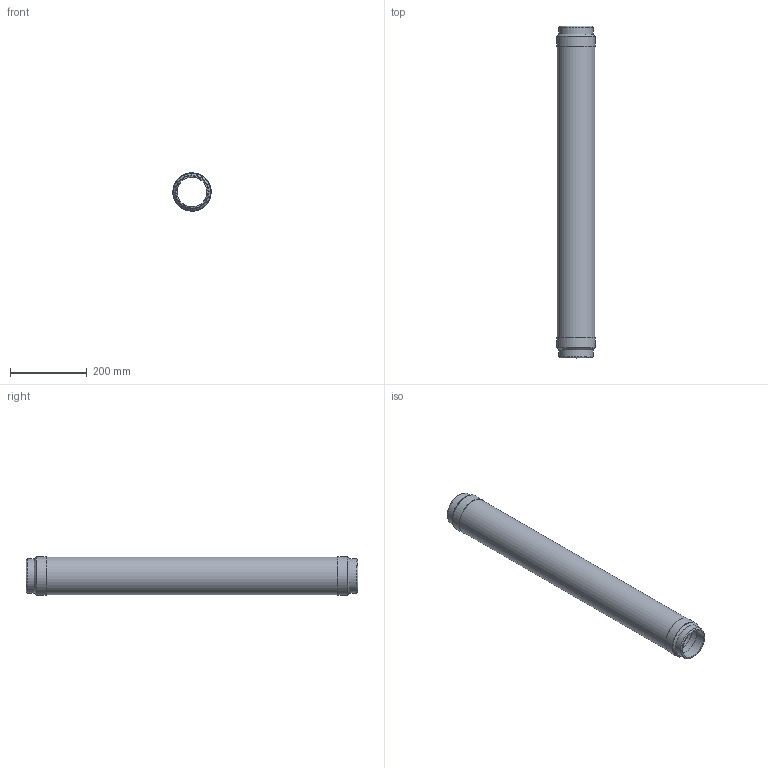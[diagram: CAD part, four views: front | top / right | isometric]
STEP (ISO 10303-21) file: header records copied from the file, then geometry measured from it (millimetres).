
FILE_DESCRIPTION(/* description */ (''),/* implementation_level */ '2;1');
FILE_NAME(/* name */ 'C:\001_Work\Designs\CSAWN\CSAWN-3x34.125.stp',/* time_stamp */ '2016-06-04T18:19:37-04:00',/* author */ ('rramoutar'),/* organization */ ('Mason Industries Inc.'),/* preprocessor_version */ 'ST-DEVELOPER v15.6',/* originating_system */ 'Autodesk Inventor 2015',/* authorisation */ '');
FILE_SCHEMA (('CONFIG_CONTROL_DESIGN'));
Length unit declared in the file: inch
Products named in the file (1): CSAWN-3x34.125
Bounding box: 100.22 x 866.77 x 100.22 mm (x, y, z)
Volume: 204749.9 mm3; surface area: 569012.3 mm2
Topology: 5 solids, 5 shells, 24 faces, 40 edges, 26 vertices
Faces by surface type: cylinder 10, plane 10, cone 4
Full cylindrical faces by diameter (mm): 77.927 x2, 88.9 x2, 97.028 x1, 97.841 x3, 100.222 x2
Entity records: 564 total; most frequent: DIRECTION 98, CARTESIAN_POINT 73, AXIS2_PLACEMENT_3D 49, EDGE_LOOP 48, ORIENTED_EDGE 48, STYLED_ITEM 29, FACE_BOUND 24, FACE_OUTER_BOUND 24
